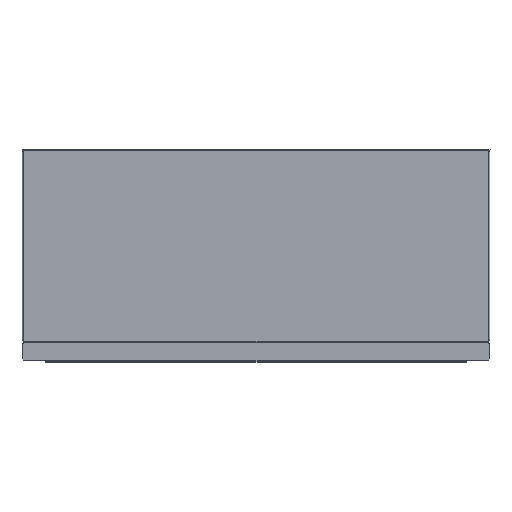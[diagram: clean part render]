
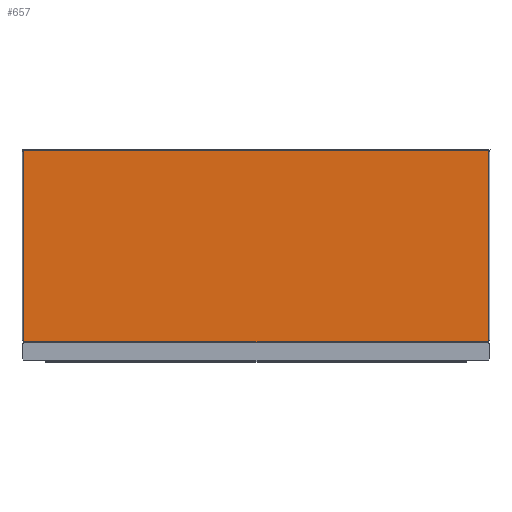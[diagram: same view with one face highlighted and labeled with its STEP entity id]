
A CAD part, front view. The second image highlights one B-rep face of the part: STEP entity #657.
In plain terms, the highlighted planar face has unit normal (0, -1, 0).
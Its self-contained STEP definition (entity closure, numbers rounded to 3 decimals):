
#1 = DIRECTION ( 'NONE',  ( 0., 0., -1. ) ) ;
#2 = CARTESIAN_POINT ( 'NONE',  ( -204., -6., 202.385 ) ) ;
#5 = DIRECTION ( 'NONE',  ( 1., 0., 0. ) ) ;
#11 = CARTESIAN_POINT ( 'NONE',  ( -205., -6., 184. ) ) ;
#211 = VERTEX_POINT ( 'NONE', #429 ) ;
#214 = VERTEX_POINT ( 'NONE', #428 ) ;
#215 = DIRECTION ( 'NONE',  ( 0., 0., -1. ) ) ;
#218 = VERTEX_POINT ( 'NONE', #427 ) ;
#228 = CARTESIAN_POINT ( 'NONE',  ( 204., -6., 202.385 ) ) ;
#234 = VERTEX_POINT ( 'NONE', #422 ) ;
#235 = DIRECTION ( 'NONE',  ( 0., 0., -1. ) ) ;
#237 = CARTESIAN_POINT ( 'NONE',  ( 204., -6., 202.385 ) ) ;
#249 = VERTEX_POINT ( 'NONE', #418 ) ;
#263 = DIRECTION ( 'NONE',  ( 1., 0., 0. ) ) ;
#266 = CARTESIAN_POINT ( 'NONE',  ( 203.5, -6., 17.5 ) ) ;
#273 = VERTEX_POINT ( 'NONE', #411 ) ;
#304 = DIRECTION ( 'NONE',  ( 0., 0., 1. ) ) ;
#325 = DIRECTION ( 'NONE',  ( 1., 0., 0. ) ) ;
#327 = DIRECTION ( 'NONE',  ( 0., -1., 0. ) ) ;
#328 = CARTESIAN_POINT ( 'NONE',  ( -205., -6., 17. ) ) ;
#329 = PLANE ( 'NONE',  #1214 ) ;
#339 = CARTESIAN_POINT ( 'NONE',  ( 203.5, -6., 15.3 ) ) ;
#350 = DIRECTION ( 'NONE',  ( 1., 0., 0. ) ) ;
#364 = CARTESIAN_POINT ( 'NONE',  ( -205., -6., 17. ) ) ;
#373 = CARTESIAN_POINT ( 'NONE',  ( -204., -6., 184. ) ) ;
#375 = CARTESIAN_POINT ( 'NONE',  ( 204., -6., 17.5 ) ) ;
#378 = CARTESIAN_POINT ( 'NONE',  ( 204., -6., 183.5 ) ) ;
#390 = DIRECTION ( 'NONE',  ( 0., 0., -1. ) ) ;
#394 = CARTESIAN_POINT ( 'NONE',  ( 204., -6., 184. ) ) ;
#393 = CARTESIAN_POINT ( 'NONE',  ( -203.5, -6., 17.5 ) ) ;
#411 = CARTESIAN_POINT ( 'NONE',  ( 203.5, -6., 17.5 ) ) ;
#418 = CARTESIAN_POINT ( 'NONE',  ( 203.5, -6., 17. ) ) ;
#422 = CARTESIAN_POINT ( 'NONE',  ( -203.5, -6., 17. ) ) ;
#427 = CARTESIAN_POINT ( 'NONE',  ( -203.5, -6., 17.5 ) ) ;
#428 = CARTESIAN_POINT ( 'NONE',  ( -204., -6., 17.5 ) ) ;
#429 = CARTESIAN_POINT ( 'NONE',  ( -204., -6., 183.5 ) ) ;
#463 = DIRECTION ( 'NONE',  ( 1., 0., 0. ) ) ;
#481 = CARTESIAN_POINT ( 'NONE',  ( -205., -6., 17.5 ) ) ;
#488 = DIRECTION ( 'NONE',  ( 0., 0., -1. ) ) ;
#502 = CARTESIAN_POINT ( 'NONE',  ( -204., -6., 202.385 ) ) ;
#523 = VERTEX_POINT ( 'NONE', #394 ) ;
#536 = VERTEX_POINT ( 'NONE', #378 ) ;
#539 = VERTEX_POINT ( 'NONE', #375 ) ;
#541 = VERTEX_POINT ( 'NONE', #373 ) ;
#657 = ADVANCED_FACE ( 'NONE', ( #1946 ), #329, .T. ) ;
#891 = EDGE_LOOP ( 'NONE', ( #1920, #1919, #1918, #1917, #1916, #1915, #1914, #1913, #1912, #1911 ) ) ;
#1214 = AXIS2_PLACEMENT_3D ( 'NONE', #328, #327, #325 ) ;
#1911 = ORIENTED_EDGE ( 'NONE', *, *, #2452, .T. ) ;
#1912 = ORIENTED_EDGE ( 'NONE', *, *, #2451, .F. ) ;
#1913 = ORIENTED_EDGE ( 'NONE', *, *, #2450, .F. ) ;
#1914 = ORIENTED_EDGE ( 'NONE', *, *, #2449, .F. ) ;
#1915 = ORIENTED_EDGE ( 'NONE', *, *, #2448, .T. ) ;
#1916 = ORIENTED_EDGE ( 'NONE', *, *, #2447, .T. ) ;
#1917 = ORIENTED_EDGE ( 'NONE', *, *, #2446, .T. ) ;
#1918 = ORIENTED_EDGE ( 'NONE', *, *, #2445, .T. ) ;
#1919 = ORIENTED_EDGE ( 'NONE', *, *, #2444, .T. ) ;
#1920 = ORIENTED_EDGE ( 'NONE', *, *, #2443, .T. ) ;
#1946 = FACE_OUTER_BOUND ( 'NONE', #891, .T. ) ;
#2337 = LINE ( 'NONE', #502, #2338 ) ;
#2338 = VECTOR ( 'NONE', #488, 1000. ) ;
#2339 = LINE ( 'NONE', #481, #2340 ) ;
#2340 = VECTOR ( 'NONE', #463, 1000. ) ;
#2341 = LINE ( 'NONE', #393, #2342 ) ;
#2342 = VECTOR ( 'NONE', #390, 1000. ) ;
#2343 = LINE ( 'NONE', #364, #2344 ) ;
#2344 = VECTOR ( 'NONE', #350, 1000. ) ;
#2345 = LINE ( 'NONE', #339, #2346 ) ;
#2346 = VECTOR ( 'NONE', #304, 1000. ) ;
#2347 = LINE ( 'NONE', #266, #2348 ) ;
#2348 = VECTOR ( 'NONE', #263, 1000. ) ;
#2349 = LINE ( 'NONE', #237, #2350 ) ;
#2350 = VECTOR ( 'NONE', #235, 1000. ) ;
#2351 = LINE ( 'NONE', #228, #2352 ) ;
#2352 = VECTOR ( 'NONE', #215, 1000. ) ;
#2353 = LINE ( 'NONE', #11, #2354 ) ;
#2354 = VECTOR ( 'NONE', #5, 1000. ) ;
#2355 = LINE ( 'NONE', #2, #2356 ) ;
#2356 = VECTOR ( 'NONE', #1, 1000. ) ;
#2443 = EDGE_CURVE ( 'NONE', #211, #214, #2337, .T. ) ;
#2444 = EDGE_CURVE ( 'NONE', #214, #218, #2339, .T. ) ;
#2445 = EDGE_CURVE ( 'NONE', #218, #234, #2341, .T. ) ;
#2446 = EDGE_CURVE ( 'NONE', #234, #249, #2343, .T. ) ;
#2447 = EDGE_CURVE ( 'NONE', #249, #273, #2345, .T. ) ;
#2448 = EDGE_CURVE ( 'NONE', #273, #539, #2347, .T. ) ;
#2449 = EDGE_CURVE ( 'NONE', #536, #539, #2349, .T. ) ;
#2450 = EDGE_CURVE ( 'NONE', #523, #536, #2351, .T. ) ;
#2451 = EDGE_CURVE ( 'NONE', #541, #523, #2353, .T. ) ;
#2452 = EDGE_CURVE ( 'NONE', #541, #211, #2355, .T. ) ;
